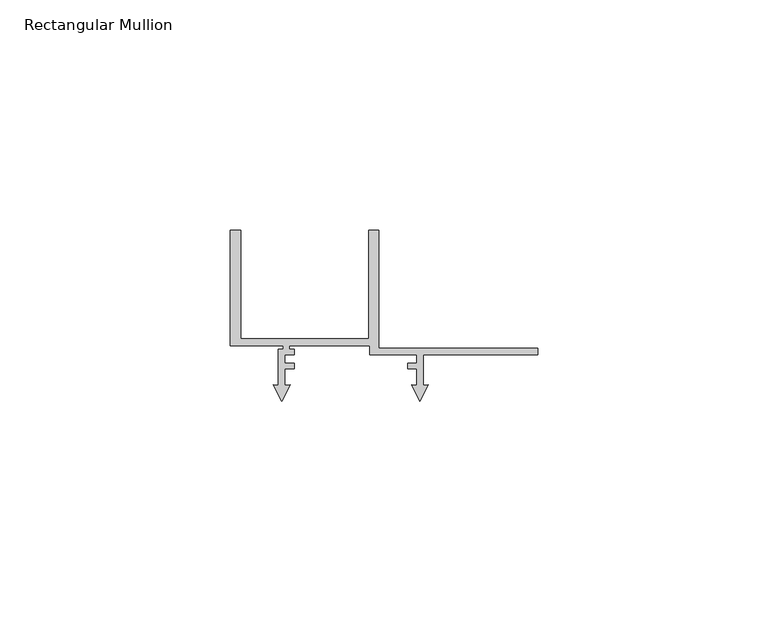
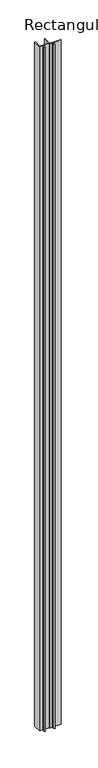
"""IFC4 building model written with IfcOpenShell, lengths in millimetres: member geometry, Rectangular Mullion : Renson_Linarte_LA-E25-01."""

import ifcopenshell
import ifcopenshell.guid

model = None  # the IFC model being written
_history = None  # IfcOwnerHistory: only IFC2X3 demands one
_inside = {}  # id of a spatial element -> (the spatial element, [elements in it])
_under = {}  # id of a project, library or spatial element -> (it, [spatial elements below it])
_declared = {}  # id of a project -> (the project, [libraries it declares])
_typed = {}  # id of a type object -> (the type object, [elements of that type])
_made_of = {}  # id of a material, layer set ... -> (it, [elements and type objects made of it])


def new_model(schema):
    """Start an empty IFC model of exactly this schema.

    Asked for "IFC4X3", IfcOpenShell would pick the latest addendum, in which some entities
    have other attributes; the version numbers below select the first issue.
    IFC2X3 requires an IfcOwnerHistory on every rooted entity: one is made here for all.
    """
    global model, _history
    if schema == "IFC4X3":
        model = ifcopenshell.file(schema_version=(4, 3, 0, 0))
    else:
        model = ifcopenshell.file(schema=schema)
    _inside.clear()
    _under.clear()
    _declared.clear()
    _typed.clear()
    _made_of.clear()
    _history = None
    if model.schema == "IFC2X3":
        org = make("IfcOrganization", Name="unknown")
        user = make(
            "IfcPersonAndOrganization",
            ThePerson=make("IfcPerson", FamilyName="unknown"),
            TheOrganization=org,
        )
        app = make(
            "IfcApplication",
            ApplicationDeveloper=org,
            Version="unknown",
            ApplicationFullName="unknown",
            ApplicationIdentifier="unknown",
        )
        _history = make(
            "IfcOwnerHistory",
            OwningUser=user,
            OwningApplication=app,
            ChangeAction="ADDED",
            CreationDate=0,
        )
    return model


def make(cls, **values):
    """One entity of the class cls with the attributes given. An attribute that is None is left unset."""
    return model.create_entity(
        cls, **{name: value for name, value in values.items() if value is not None}
    )


def rooted(cls, **values):
    """An entity with a GlobalId (a new one), such as an element, a storey or a relation."""
    return make(cls, GlobalId=ifcopenshell.guid.new(), OwnerHistory=_history, **values)


def si_unit(unit_type, name, prefix=None):
    """IfcSIUnit, for example si_unit("LENGTHUNIT", "METRE", prefix="MILLI")."""
    return make("IfcSIUnit", UnitType=unit_type, Prefix=prefix, Name=name)


def assignment(units):
    """IfcUnitAssignment: the units of a project."""
    return None if units is None else make("IfcUnitAssignment", Units=units)


def point(xyz):
    """IfcCartesianPoint."""
    return None if xyz is None else make("IfcCartesianPoint", Coordinates=xyz)


def direction(xyz):
    """IfcDirection."""
    return None if xyz is None else make("IfcDirection", DirectionRatios=xyz)


def frame(location, z_axis=None, x_axis=None):
    """IfcAxis2Placement3D, a coordinate frame: its origin and axes. An axis left out is left unset."""
    return make(
        "IfcAxis2Placement3D",
        Location=point(location),
        Axis=direction(z_axis),
        RefDirection=direction(x_axis),
    )


def origin():
    """The frame at (0, 0, 0) with its axes left unset."""
    return frame((0.0, 0.0, 0.0))


def place(relative_to, where):
    """IfcLocalPlacement: puts the frame where relative to a parent placement (None: the world)."""
    return make(
        "IfcLocalPlacement", PlacementRelTo=relative_to, RelativePlacement=where
    )


def context(
    kind, dimensions, precision=None, world=None, true_north=None, identifier=None
):
    """IfcGeometricRepresentationContext, for example the 3D "Model" context."""
    return make(
        "IfcGeometricRepresentationContext",
        ContextIdentifier=identifier,
        ContextType=kind,
        CoordinateSpaceDimension=dimensions,
        Precision=precision,
        WorldCoordinateSystem=world,
        TrueNorth=true_north,
    )


def project(units=None, contexts=None):
    """IfcProject with its units and contexts."""
    return rooted(
        "IfcProject",
        Name="project",
        RepresentationContexts=contexts,
        UnitsInContext=assignment(units),
    )


def spatial(cls, under=None, at=None, **own):
    """A site, building, storey or space (cls), placed at a placement, below another one or the project."""
    s = rooted(cls, ObjectPlacement=at, **own)
    if under is not None:
        _under.setdefault(under.id(), (under, []))[1].append(s)
    return s


def polyline(points):
    """IfcPolyline through the points."""
    return make("IfcPolyline", Points=[point(p) for p in points])


def outline(outer, holes=None, kind="AREA"):
    """IfcArbitraryClosedProfileDef: a profile drawn as a closed curve; with holes, ...WithVoids."""
    if holes is None:
        return make("IfcArbitraryClosedProfileDef", ProfileType=kind, OuterCurve=outer)
    return make(
        "IfcArbitraryProfileDefWithVoids",
        ProfileType=kind,
        OuterCurve=outer,
        InnerCurves=holes,
    )


def extrude(swept, where, along, depth):
    """IfcExtrudedAreaSolid: the profile swept, set in the frame where, extruded along a direction by depth."""
    return make(
        "IfcExtrudedAreaSolid",
        SweptArea=swept,
        Position=where,
        ExtrudedDirection=direction(along),
        Depth=depth,
    )


def shape(context_of_items, identifier, shape_type, items):
    """IfcShapeRepresentation: the items that make up one representation, for example the "Body"."""
    return make(
        "IfcShapeRepresentation",
        ContextOfItems=context_of_items,
        RepresentationIdentifier=identifier,
        RepresentationType=shape_type,
        Items=items,
    )


def source(mapping_origin, context_of_items, identifier, shape_type, items):
    """IfcRepresentationMap: a shape defined once, which mapped items show again and again."""
    return make(
        "IfcRepresentationMap",
        MappingOrigin=mapping_origin,
        MappedRepresentation=shape(context_of_items, identifier, shape_type, items),
    )


def transform(
    local_origin,
    x_axis=None,
    y_axis=None,
    z_axis=None,
    scale=None,
    scale2=None,
    scale3=None,
    uniform=True,
):
    """IfcCartesianTransformationOperator3D, or its non-uniform kind. x_axis, y_axis, z_axis: its Axis1, 2, 3."""
    if uniform:
        return make(
            "IfcCartesianTransformationOperator3D",
            Axis1=direction(x_axis),
            Axis2=direction(y_axis),
            LocalOrigin=point(local_origin),
            Scale=scale,
            Axis3=direction(z_axis),
        )
    return make(
        "IfcCartesianTransformationOperator3DnonUniform",
        Axis1=direction(x_axis),
        Axis2=direction(y_axis),
        LocalOrigin=point(local_origin),
        Scale=scale,
        Axis3=direction(z_axis),
        Scale2=scale2,
        Scale3=scale3,
    )


def mapped(mapping_source, mapping_target):
    """IfcMappedItem: shows the shape of a source again, moved by a transform."""
    return make(
        "IfcMappedItem", MappingSource=mapping_source, MappingTarget=mapping_target
    )


def made_of(thing, what):
    """Note that an element or type object is made of a material, layer set ...; save() writes the relation."""
    if what is not None:
        _made_of.setdefault(what.id(), (what, []))[1].append(thing)
    return thing


def element(
    cls,
    number,
    at=None,
    inside=None,
    cuts=None,
    type_object=None,
    material=None,
    context=None,
    identifier="Body",
    shape_type=None,
    held_by="IfcProductDefinitionShape",
    body=None,
    shapes=None,
    **own,
):
    """One element of the class cls, such as IfcWall. Its Tag is "e" and its number.

    at: its placement. inside: the storey or other place that contains it. cuts: it is an
    opening in that element (IfcRelVoidsElement). A single representation is given by context,
    identifier, shape_type and body (its items); several are given by shapes. held_by: the class
    of the entity that holds the representations. save() writes the other relations.
    """
    e = rooted(cls, Tag="e%d" % number, ObjectPlacement=at, **own)
    if body is not None:
        shapes = [shape(context, identifier, shape_type, body)]
    if shapes is not None:
        e.Representation = make(held_by, Representations=shapes)
    if inside is not None:
        _inside.setdefault(inside.id(), (inside, []))[1].append(e)
    if cuts is not None:
        rooted(
            "IfcRelVoidsElement", RelatingBuildingElement=cuts, RelatedOpeningElement=e
        )
    if type_object is not None:
        _typed.setdefault(type_object.id(), (type_object, []))[1].append(e)
    return made_of(e, material)


def aggregate(whole, parts):
    """IfcRelAggregates: a whole, such as a stair, and the parts it consists of."""
    return rooted("IfcRelAggregates", RelatingObject=whole, RelatedObjects=parts)


def save(model, path):
    """Write the relations noted so far, then the file.

    IfcRelAggregates (storeys below a building ...), IfcRelContainedInSpatialStructure (elements
    in a storey), IfcRelDefinesByType, IfcRelAssociatesMaterial and IfcRelDeclares: one each for
    every whole, place, type object, material and project.
    """
    for whole, parts in _under.values():
        aggregate(whole, parts)
    for where, things in _inside.values():
        rooted(
            "IfcRelContainedInSpatialStructure",
            RelatedElements=things,
            RelatingStructure=where,
        )
    for kind, things in _typed.values():
        rooted("IfcRelDefinesByType", RelatedObjects=things, RelatingType=kind)
    for what, things in _made_of.values():
        rooted("IfcRelAssociatesMaterial", RelatedObjects=things, RelatingMaterial=what)
    for by, libraries in _declared.values():
        rooted("IfcRelDeclares", RelatingContext=by, RelatedDefinitions=libraries)
    model.write(path)


def rectangular_mullion_a288ed38(model_context):
    return source(origin(), model_context, "Body", "SweptSolid", [
        extrude(outline(polyline([(66.6, 68.1000494), (66.6, 66.6000494), (41.8, 66.6000494), (41.8, 60.0071867), (42.9255299, 60.1056578), (41.0999986, 56.5228474), (39.2744672, 60.1056581), (40.3999998, 60.0071867), (40.3999998, 63.599221), (38.4077357, 63.599221), (38.4077357, 64.8000494), (40.3999995, 64.8000494), (40.3999995, 66.6000494), (30.1732051, 66.6000494), (30.1732051, 68.6000494), (12.8, 68.6000494), (12.8, 67.8015754), (13.7880766, 67.8015754), (13.7880766, 66.6000494), (11.8091794, 66.6000494), (11.8091794, 64.8000494), (13.7875618, 64.8000494), (13.7875618, 63.5979618), (11.7999987, 63.5979618), (11.7999987, 60.0038712), (12.9157351, 60.1014855), (11.0999986, 56.537898), (9.284262, 60.1014855), (10.3999985, 60.0038712), (10.3999985, 67.8015754), (11.4, 67.8015754), (11.4, 68.6000494), (0.0, 68.6000494), (0.0, 93.6000494), (2.2, 93.6000494), (2.2, 70.1000494), (30.0, 70.1000494), (30.0, 93.6000494), (32.2, 93.6000494), (32.2, 68.1000494), (66.6, 68.1000494)])), frame((0.0, 0.0, -2250.0), z_axis=(0.0, 0.0, 1.0), x_axis=(1.0, 0.0, 0.0)), (0.0, 0.0, 1.0), 2250.0),
    ])


if __name__ == "__main__":
    model = new_model("IFC4")
    model_context = context("Model", 3, world=origin())
    ifc_project = project(units=[si_unit("LENGTHUNIT", "METRE", prefix="MILLI")], contexts=[model_context])
    site = spatial("IfcSite", under=ifc_project)
    building = spatial("IfcBuilding", under=site)
    placement = place(None, origin())
    rectangular_mullion_shape = rectangular_mullion_a288ed38(model_context)
    element("IfcMember", 1, ObjectType="Rectangular Mullion : Renson_Linarte_LA-E25-01", at=placement, inside=building, context=model_context, shape_type="MappedRepresentation", body=[
        mapped(rectangular_mullion_shape, transform((0.0, 0.0, 0.0), x_axis=(1.0, 0.0, 0.0), y_axis=(0.0, 1.0, 0.0), z_axis=(0.0, 0.0, 1.0))),
    ])
    save(model, "model.ifc")
